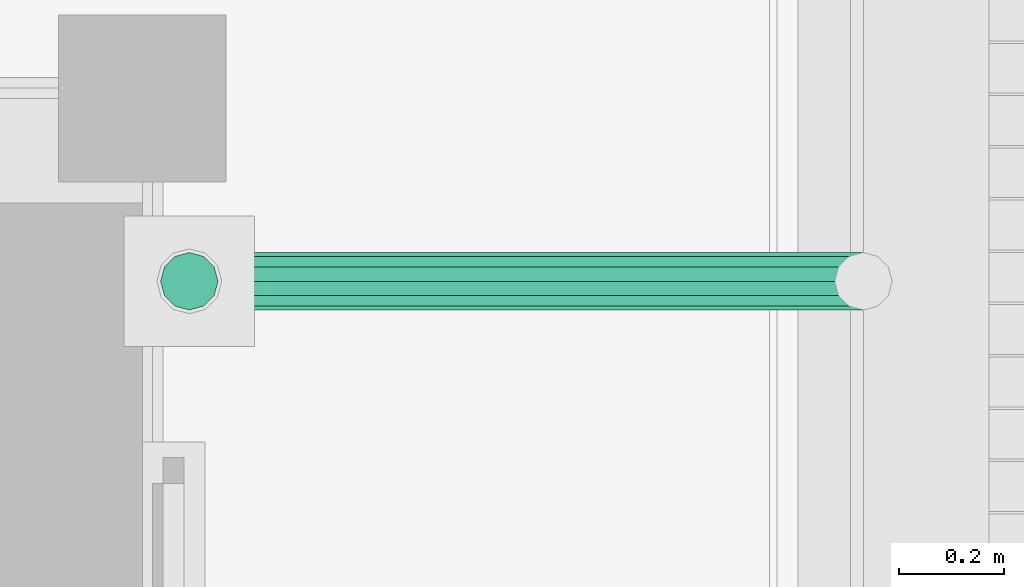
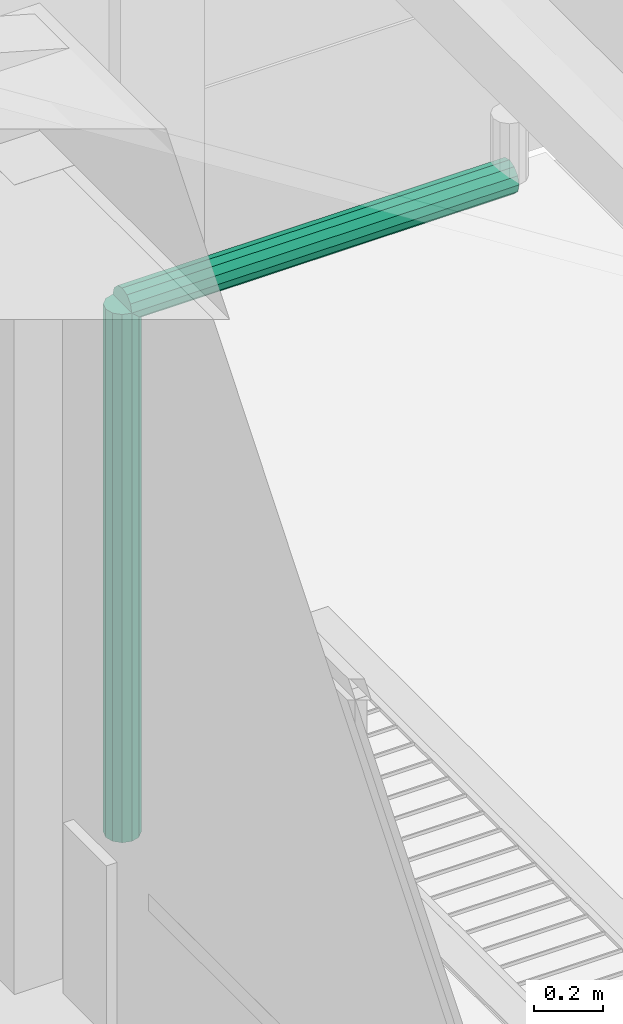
# One storey, part 108 of 166: 2 flow segments.
"""IFC2X3 building model written with IfcOpenShell, lengths in metres."""

from ifc_helpers import new_model, si_unit, origin, origin_with_axes, place, context, subcontext, project, spatial, faceted_brep, element, save


model = new_model("IFC2X3")

# Units and contexts
model_context = context("Model", 3, precision=1e-05, world=origin_with_axes())
body_context = subcontext(model_context, "Body", "Model", "MODEL_VIEW")
ifc_project = project(units=[si_unit("LENGTHUNIT", "METRE"), si_unit("AREAUNIT", "SQUARE_METRE"), si_unit("VOLUMEUNIT", "CUBIC_METRE"), si_unit("PLANEANGLEUNIT", "RADIAN")], contexts=[model_context])

# Site, building, storey
site_placement = place(None, origin_with_axes())
site = spatial("IfcSite", under=ifc_project, at=site_placement, Name="Predio Los Mangos - Morales, San Martín", CompositionType="ELEMENT")
building_placement = place(site_placement, origin())
building = spatial("IfcBuilding", under=site, at=building_placement, Name="Hogar de Refugio Temporal", CompositionType="ELEMENT")
storey_placement = place(building_placement, origin())
storey = spatial("IfcBuildingStorey", under=building, at=storey_placement, Name="NIVEL 1 (NPT +0.00)", CompositionType="ELEMENT", Elevation=0.0)

# Flow segments
flow_segment_1_placement = place(storey_placement, origin())
element("IfcFlowSegment", 1, at=flow_segment_1_placement, inside=storey, Name="montante_desvio", ObjectType="Montante PVC 4\"", context=body_context, shape_type="Brep", body=[
    faceted_brep([(67.88, 127.45, 2.965), (66.59, 127.45, 2.965), (66.59, 127.4225, 2.9576), (67.88, 127.4225, 2.9576), (66.59, 127.4024, 2.9375), (67.88, 127.4024, 2.9375), (66.59, 127.395, 2.91), (67.88, 127.395, 2.91), (66.59, 127.4024, 2.8825), (67.88, 127.4024, 2.8825), (66.59, 127.4225, 2.8624), (67.88, 127.4225, 2.8624), (66.59, 127.45, 2.855), (67.88, 127.45, 2.855), (66.59, 127.4775, 2.8624), (67.88, 127.4775, 2.8624), (66.59, 127.4976, 2.8825), (67.88, 127.4976, 2.8825), (66.59, 127.505, 2.91), (67.88, 127.505, 2.91), (66.59, 127.4976, 2.9375), (67.88, 127.4976, 2.9375), (66.59, 127.4775, 2.9576), (67.88, 127.4775, 2.9576)], [[[0, 1, 2, 3]], [[3, 2, 4, 5]], [[5, 4, 6, 7]], [[7, 6, 8, 9]], [[9, 8, 10, 11]], [[11, 10, 12, 13]], [[13, 12, 14, 15]], [[15, 14, 16, 17]], [[17, 16, 18, 19]], [[19, 18, 20, 21]], [[2, 1, 22, 20, 18, 16, 14, 12, 10, 8, 6, 4]], [[21, 20, 22, 23]], [[23, 22, 1, 0]], [[0, 3, 5, 7, 9, 11, 13, 15, 17, 19, 21, 23]]]),
])
flow_segment_2_placement = place(storey_placement, origin())
element("IfcFlowSegment", 2, at=flow_segment_2_placement, inside=storey, Name="montante_bajada", ObjectType="Montante PVC 4\"", context=body_context, shape_type="Brep", body=[
    faceted_brep([(66.59, 127.505, 2.91), (66.59, 127.505, 1.05), (66.5625, 127.4976, 1.05), (66.5625, 127.4976, 2.91), (66.5424, 127.4775, 1.05), (66.5424, 127.4775, 2.91), (66.535, 127.45, 1.05), (66.535, 127.45, 2.91), (66.5424, 127.4225, 1.05), (66.5424, 127.4225, 2.91), (66.5625, 127.4024, 1.05), (66.5625, 127.4024, 2.91), (66.59, 127.395, 1.05), (66.59, 127.395, 2.91), (66.6175, 127.4024, 1.05), (66.6175, 127.4024, 2.91), (66.6376, 127.4225, 1.05), (66.6376, 127.4225, 2.91), (66.645, 127.45, 1.05), (66.645, 127.45, 2.91), (66.6376, 127.4775, 1.05), (66.6376, 127.4775, 2.91), (66.6175, 127.4976, 1.05), (66.6175, 127.4976, 2.91)], [[[0, 1, 2, 3]], [[3, 2, 4, 5]], [[5, 4, 6, 7]], [[7, 6, 8, 9]], [[9, 8, 10, 11]], [[11, 10, 12, 13]], [[13, 12, 14, 15]], [[15, 14, 16, 17]], [[17, 16, 18, 19]], [[19, 18, 20, 21]], [[2, 1, 22, 20, 18, 16, 14, 12, 10, 8, 6, 4]], [[21, 20, 22, 23]], [[23, 22, 1, 0]], [[0, 3, 5, 7, 9, 11, 13, 15, 17, 19, 21, 23]]]),
])

save(model, "model.ifc")
